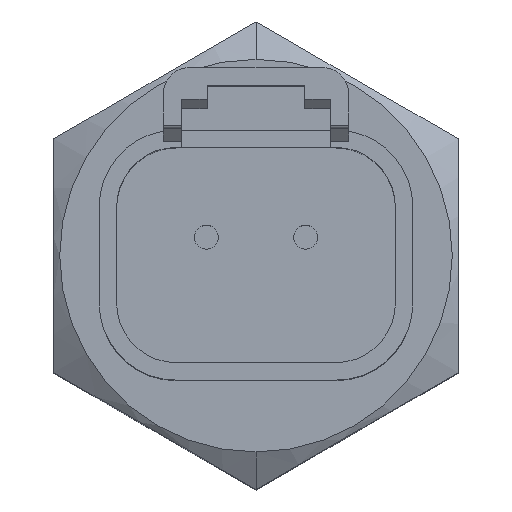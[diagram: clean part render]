
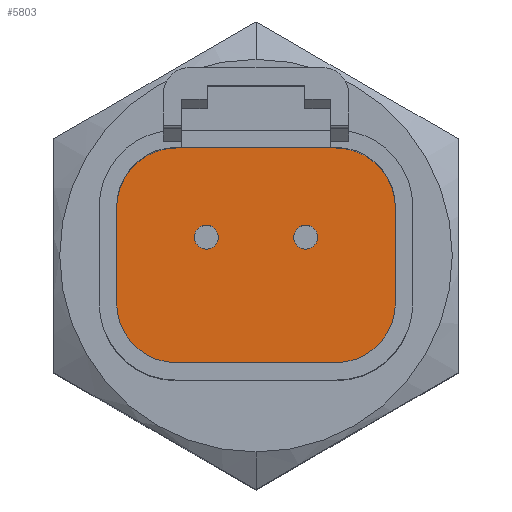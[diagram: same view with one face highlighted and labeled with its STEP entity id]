
A CAD part, top view. The second image highlights one B-rep face of the part: STEP entity #5803.
In plain terms, the highlighted planar face has unit normal (0, 0, 1).
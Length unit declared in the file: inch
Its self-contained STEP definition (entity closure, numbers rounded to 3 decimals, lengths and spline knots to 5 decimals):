
#16 = VERTEX_POINT ( 'NONE', #1170 ) ;
#52 = VERTEX_POINT ( 'NONE', #1842 ) ;
#101 = EDGE_LOOP ( 'NONE', ( #2313, #731 ) ) ;
#203 = CARTESIAN_POINT ( 'NONE',  ( 0.08071, 0.03937, 0.91339 ) ) ;
#409 = AXIS2_PLACEMENT_3D ( 'NONE', #2641, #8657, #2179 ) ;
#478 = VECTOR ( 'NONE', #831, 39.37008 ) ;
#524 = CARTESIAN_POINT ( 'NONE',  ( -0.1063, 0.03937, 0.91339 ) ) ;
#564 = AXIS2_PLACEMENT_3D ( 'NONE', #5987, #4506, #7218 ) ;
#629 = CARTESIAN_POINT ( 'NONE',  ( -0.1063, 0.03937, 0.91339 ) ) ;
#731 = ORIENTED_EDGE ( 'NONE', *, *, #1251, .F. ) ;
#831 = DIRECTION ( 'NONE',  ( -1., 0., 0. ) ) ;
#834 = VERTEX_POINT ( 'NONE', #3949 ) ;
#919 = DIRECTION ( 'NONE',  ( 1., 0., 0. ) ) ;
#966 = VECTOR ( 'NONE', #5813, 39.37008 ) ;
#969 = DIRECTION ( 'NONE',  ( 0., 0., -1. ) ) ;
#984 = VERTEX_POINT ( 'NONE', #3562 ) ;
#1170 = CARTESIAN_POINT ( 'NONE',  ( 0.29823, -0.10236, 0.91339 ) ) ;
#1244 = CARTESIAN_POINT ( 'NONE',  ( -0.17028, 0.23031, 0.91339 ) ) ;
#1251 = EDGE_CURVE ( 'NONE', #4890, #5510, #2151, .T. ) ;
#1317 = VECTOR ( 'NONE', #4989, 39.37008 ) ;
#1501 = PLANE ( 'NONE',  #7982 ) ;
#1514 = EDGE_LOOP ( 'NONE', ( #4236, #4903, #7252, #8127, #3532, #6563, #7696, #1904 ) ) ;
#1724 = CARTESIAN_POINT ( 'NONE',  ( -0.29823, -0.10236, 0.91339 ) ) ;
#1842 = CARTESIAN_POINT ( 'NONE',  ( 0.17028, -0.23031, 0.91339 ) ) ;
#1891 = DIRECTION ( 'NONE',  ( 0., 0., 1. ) ) ;
#1904 = ORIENTED_EDGE ( 'NONE', *, *, #3356, .F. ) ;
#2068 = DIRECTION ( 'NONE',  ( 0., -1., 0. ) ) ;
#2151 = CIRCLE ( 'NONE', #8228, 0.02559 ) ;
#2179 = DIRECTION ( 'NONE',  ( -1., 0., 0. ) ) ;
#2313 = ORIENTED_EDGE ( 'NONE', *, *, #2427, .F. ) ;
#2427 = EDGE_CURVE ( 'NONE', #5510, #4890, #5339, .T. ) ;
#2454 = DIRECTION ( 'NONE',  ( 0., 0., 1. ) ) ;
#2527 = LINE ( 'NONE', #1244, #966 ) ;
#2619 = CIRCLE ( 'NONE', #7562, 0.02559 ) ;
#2631 = CARTESIAN_POINT ( 'NONE',  ( 0.29823, -0.23031, 0.91339 ) ) ;
#2641 = CARTESIAN_POINT ( 'NONE',  ( -0.17028, 0.10236, 0.91339 ) ) ;
#2649 = VERTEX_POINT ( 'NONE', #7256 ) ;
#2749 = CARTESIAN_POINT ( 'NONE',  ( 0.1063, 0.03937, 0.91339 ) ) ;
#2823 = LINE ( 'NONE', #8212, #5199 ) ;
#2997 = CARTESIAN_POINT ( 'NONE',  ( -0.08071, 0.03937, 0.91339 ) ) ;
#3356 = EDGE_CURVE ( 'NONE', #4475, #16, #2823, .T. ) ;
#3373 = DIRECTION ( 'NONE',  ( 0., 0., 1. ) ) ;
#3455 = VERTEX_POINT ( 'NONE', #2997 ) ;
#3472 = AXIS2_PLACEMENT_3D ( 'NONE', #3537, #969, #919 ) ;
#3532 = ORIENTED_EDGE ( 'NONE', *, *, #8041, .F. ) ;
#3537 = CARTESIAN_POINT ( 'NONE',  ( 0.17028, -0.10236, 0.91339 ) ) ;
#3562 = CARTESIAN_POINT ( 'NONE',  ( -0.29823, -0.10236, 0.91339 ) ) ;
#3585 = ORIENTED_EDGE ( 'NONE', *, *, #4861, .F. ) ;
#3643 = DIRECTION ( 'NONE',  ( 0., 0., 1. ) ) ;
#3948 = CARTESIAN_POINT ( 'NONE',  ( 0.1063, 0.03937, 0.91339 ) ) ;
#3949 = CARTESIAN_POINT ( 'NONE',  ( 0.17028, 0.23031, 0.91339 ) ) ;
#4058 = AXIS2_PLACEMENT_3D ( 'NONE', #4354, #8379, #6348 ) ;
#4063 = CIRCLE ( 'NONE', #564, 0.12795 ) ;
#4187 = AXIS2_PLACEMENT_3D ( 'NONE', #524, #2454, #7854 ) ;
#4236 = ORIENTED_EDGE ( 'NONE', *, *, #7251, .F. ) ;
#4285 = FACE_BOUND ( 'NONE', #6174, .T. ) ;
#4354 = CARTESIAN_POINT ( 'NONE',  ( 0.17028, 0.10236, 0.91339 ) ) ;
#4380 = CARTESIAN_POINT ( 'NONE',  ( -0.17028, -0.23031, 0.91339 ) ) ;
#4428 = CARTESIAN_POINT ( 'NONE',  ( -0.29823, 0.10236, 0.91339 ) ) ;
#4475 = VERTEX_POINT ( 'NONE', #6808 ) ;
#4490 = EDGE_CURVE ( 'NONE', #52, #7802, #8123, .T. ) ;
#4506 = DIRECTION ( 'NONE',  ( 0., 0., -1. ) ) ;
#4567 = EDGE_CURVE ( 'NONE', #984, #7437, #5714, .T. ) ;
#4861 = EDGE_CURVE ( 'NONE', #4995, #3455, #8437, .T. ) ;
#4890 = VERTEX_POINT ( 'NONE', #7239 ) ;
#4903 = ORIENTED_EDGE ( 'NONE', *, *, #8053, .F. ) ;
#4989 = DIRECTION ( 'NONE',  ( 0., 1., 0. ) ) ;
#4992 = FACE_OUTER_BOUND ( 'NONE', #1514, .T. ) ;
#4995 = VERTEX_POINT ( 'NONE', #6254 ) ;
#5199 = VECTOR ( 'NONE', #2068, 39.37008 ) ;
#5339 = CIRCLE ( 'NONE', #5772, 0.02559 ) ;
#5510 = VERTEX_POINT ( 'NONE', #203 ) ;
#5695 = EDGE_CURVE ( 'NONE', #3455, #4995, #2619, .T. ) ;
#5714 = LINE ( 'NONE', #1724, #1317 ) ;
#5772 = AXIS2_PLACEMENT_3D ( 'NONE', #3948, #3373, #6077 ) ;
#5803 = ADVANCED_FACE ( 'NONE', ( #4992, #4285, #6988 ), #1501, .T. ) ;
#5813 = DIRECTION ( 'NONE',  ( 1., 0., 0. ) ) ;
#5987 = CARTESIAN_POINT ( 'NONE',  ( -0.17028, -0.10236, 0.91339 ) ) ;
#6077 = DIRECTION ( 'NONE',  ( 1., 0., 0. ) ) ;
#6174 = EDGE_LOOP ( 'NONE', ( #3585, #8030 ) ) ;
#6222 = EDGE_CURVE ( 'NONE', #16, #52, #6587, .T. ) ;
#6254 = CARTESIAN_POINT ( 'NONE',  ( -0.13189, 0.03937, 0.91339 ) ) ;
#6348 = DIRECTION ( 'NONE',  ( 0., 1., 0. ) ) ;
#6469 = CIRCLE ( 'NONE', #4058, 0.12795 ) ;
#6563 = ORIENTED_EDGE ( 'NONE', *, *, #4490, .F. ) ;
#6587 = CIRCLE ( 'NONE', #3472, 0.12795 ) ;
#6624 = DIRECTION ( 'NONE',  ( 0., 1., 0. ) ) ;
#6808 = CARTESIAN_POINT ( 'NONE',  ( 0.29823, 0.10236, 0.91339 ) ) ;
#6848 = DIRECTION ( 'NONE',  ( 1., 0., 0. ) ) ;
#6988 = FACE_BOUND ( 'NONE', #101, .T. ) ;
#7143 = EDGE_CURVE ( 'NONE', #7437, #2649, #7883, .T. ) ;
#7218 = DIRECTION ( 'NONE',  ( 0., -1., 0. ) ) ;
#7239 = CARTESIAN_POINT ( 'NONE',  ( 0.13189, 0.03937, 0.91339 ) ) ;
#7251 = EDGE_CURVE ( 'NONE', #834, #4475, #6469, .T. ) ;
#7252 = ORIENTED_EDGE ( 'NONE', *, *, #7143, .F. ) ;
#7256 = CARTESIAN_POINT ( 'NONE',  ( -0.17028, 0.23031, 0.91339 ) ) ;
#7348 = DIRECTION ( 'NONE',  ( 0., 0., 1. ) ) ;
#7437 = VERTEX_POINT ( 'NONE', #4428 ) ;
#7562 = AXIS2_PLACEMENT_3D ( 'NONE', #629, #7348, #6848 ) ;
#7696 = ORIENTED_EDGE ( 'NONE', *, *, #6222, .F. ) ;
#7802 = VERTEX_POINT ( 'NONE', #4380 ) ;
#7854 = DIRECTION ( 'NONE',  ( 1., 0., 0. ) ) ;
#7883 = CIRCLE ( 'NONE', #409, 0.12795 ) ;
#7982 = AXIS2_PLACEMENT_3D ( 'NONE', #2631, #1891, #6624 ) ;
#8030 = ORIENTED_EDGE ( 'NONE', *, *, #5695, .F. ) ;
#8041 = EDGE_CURVE ( 'NONE', #7802, #984, #4063, .T. ) ;
#8053 = EDGE_CURVE ( 'NONE', #2649, #834, #2527, .T. ) ;
#8123 = LINE ( 'NONE', #8173, #478 ) ;
#8127 = ORIENTED_EDGE ( 'NONE', *, *, #4567, .F. ) ;
#8173 = CARTESIAN_POINT ( 'NONE',  ( 0.17028, -0.23031, 0.91339 ) ) ;
#8212 = CARTESIAN_POINT ( 'NONE',  ( 0.29823, 0.10236, 0.91339 ) ) ;
#8228 = AXIS2_PLACEMENT_3D ( 'NONE', #2749, #3643, #8279 ) ;
#8279 = DIRECTION ( 'NONE',  ( 1., 0., 0. ) ) ;
#8379 = DIRECTION ( 'NONE',  ( 0., 0., -1. ) ) ;
#8437 = CIRCLE ( 'NONE', #4187, 0.02559 ) ;
#8657 = DIRECTION ( 'NONE',  ( 0., 0., -1. ) ) ;
